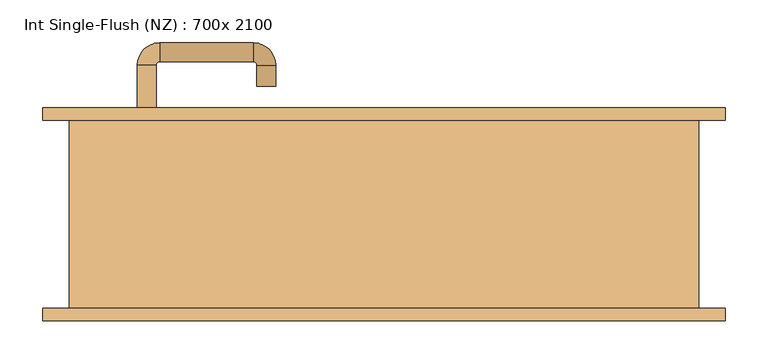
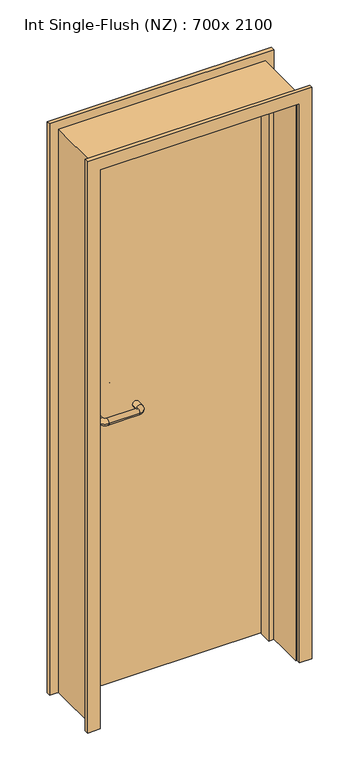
"""IFC4 building model written with IfcOpenShell, lengths in millimetres: door geometry, Int Single-Flush (NZ) : 700x 2100."""

from ifc_helpers import new_model, si_unit, point, frame, frame_2d, origin, place, context, project, spatial, polyline, circle_curve, ellipse_curve, trimmed, segment, composite_curve, outline, extrude, faceted_brep, source, transform, mapped, element, save
from ifc_brep_helpers import plane_surface, cylinder_surface, revolved_surface, advanced_brep


def int_single_flush_nz_700x_2100_f912e773(model_context):
    return source(origin(), model_context, "Body", "SolidModel", [
        extrude(outline(polyline([(2119.0, -444.0), (0.0, -444.0), (0.0, -425.0), (2100.0, -425.0), (2100.0, 275.0), (0.0, 275.0), (0.0, 294.0), (2119.0, 294.0), (2119.0, -444.0)])), frame((0.0, -110.0, 0.0), z_axis=(0.0, 1.0, 0.0), x_axis=(0.0, 0.0, 1.0)), (0.0, 0.0, 1.0), 220.0),
        faceted_brep([(-425.0, 69.0, 0.0), (-406.6719264, 69.0, 0.0), (-406.6719264, 24.0, 0.0), (-425.0, 24.0, 0.0), (-425.0, 69.0, 2100.0), (-406.6719264, 69.0, 2081.6719264), (-406.6719264, 24.0, 2081.6719264), (-425.0, 24.0, 2100.0), (275.0, 69.0, 0.0), (275.0, 24.0, 0.0), (256.6719264, 24.0, 0.0), (256.6719264, 69.0, 0.0), (275.0, 69.0, 2100.0), (275.0, 24.0, 2100.0), (256.6719264, 24.0, 2081.6719264), (256.6719264, 69.0, 2081.6719264)], [[[0, 1, 2, 3]], [[1, 0, 4, 5]], [[2, 1, 5, 6]], [[3, 2, 6, 7]], [[0, 3, 7, 4]], [[8, 9, 10, 11]], [[12, 13, 9, 8]], [[13, 14, 10, 9]], [[14, 15, 11, 10]], [[15, 12, 8, 11]], [[5, 4, 12, 15]], [[6, 5, 15, 14]], [[7, 6, 14, 13]], [[4, 7, 13, 12]]]),
        extrude(outline(polyline([(2150.0, 325.0), (2150.0, -475.0), (0.0, -475.0), (0.0, -430.0), (2105.0, -430.0), (2105.0, 280.0), (0.0, 280.0), (0.0, 325.0), (2150.0, 325.0)])), frame((0.0, 110.0, 0.0), z_axis=(0.0, 1.0, 0.0), x_axis=(0.0, 0.0, 1.0)), (0.0, 0.0, 1.0), 15.0),
        extrude(outline(polyline([(2150.0, -475.0), (0.0, -475.0), (0.0, -430.0), (2105.0, -430.0), (2105.0, 280.0), (0.0, 280.0), (0.0, 325.0), (2150.0, 325.0), (2150.0, -475.0)])), frame((0.0, -125.0, 0.0), z_axis=(0.0, 1.0, 0.0), x_axis=(0.0, 0.0, 1.0)), (0.0, 0.0, 1.0), 15.0),
        advanced_brep(
        [(-364.0, 62.0160352, 1053.0), (-342.0, 62.0160352, 1053.0), (-364.0, 7.0160352, 1053.0), (-342.0, 7.0160352, 1053.0), (-338.0, 3.0160352, 1053.0), (-338.0, -18.9839648, 1053.0), (-228.0, -18.9839648, 1053.0), (-228.0, 3.0160352, 1053.0), (-224.0, 7.0160352, 1053.0), (-202.0, 7.0160352, 1053.0), (-202.0, 32.0160352, 1053.0), (-224.0, 32.0160352, 1053.0)],
        [
            (0, 1, circle_curve(frame((-353.0, 62.0160352, 1053.0), z_axis=(0.0, 1.0, 0.0), x_axis=(1.0, 0.0, 0.0)), 11.0)),
            (1, 0, circle_curve(frame((-353.0, 62.0160352, 1053.0), z_axis=(0.0, 1.0, 0.0), x_axis=(1.0, 0.0, 0.0)), 11.0)),
            (0, 2),
            (2, 3, circle_curve(frame((-353.0, 7.0160352, 1053.0), z_axis=(0.0, 1.0, 0.0), x_axis=(1.0, 0.0, 0.0)), 11.0)),
            (3, 1),
            (3, 2, circle_curve(frame((-353.0, 7.0160352, 1053.0), z_axis=(0.0, 1.0, 0.0), x_axis=(1.0, 0.0, 0.0)), 11.0)),
            (4, 3, circle_curve(frame((-338.0, 7.0160352, 1053.0), z_axis=(0.0, 0.0, -1.0), x_axis=(-1.0, 0.0, 0.0)), 4.0)),
            (2, 5, circle_curve(frame((-338.0, 7.0160352, 1053.0), z_axis=(0.0, 0.0, 1.0), x_axis=(-1.0, 0.0, 0.0)), 26.0)),
            (5, 4, circle_curve(frame((-338.0, -7.9839648, 1053.0), z_axis=(-1.0, 0.0, 0.0), x_axis=(0.0, 1.0, 0.0)), 11.0)),
            (4, 5, circle_curve(frame((-338.0, -7.9839648, 1053.0), z_axis=(-1.0, 0.0, 0.0), x_axis=(0.0, 1.0, 0.0)), 11.0)),
            (5, 6),
            (6, 7, circle_curve(frame((-228.0, -7.9839648, 1053.0), z_axis=(-1.0, 0.0, 0.0), x_axis=(0.0, 1.0, 0.0)), 11.0)),
            (7, 4),
            (7, 6, circle_curve(frame((-228.0, -7.9839648, 1053.0), z_axis=(-1.0, 0.0, 0.0), x_axis=(0.0, 1.0, 0.0)), 11.0)),
            (8, 7, circle_curve(frame((-228.0, 7.0160352, 1053.0), z_axis=(0.0, 0.0, -1.0), x_axis=(0.0, -1.0, 0.0)), 4.0)),
            (6, 9, circle_curve(frame((-228.0, 7.0160352, 1053.0), z_axis=(0.0, 0.0, 1.0), x_axis=(0.0, -1.0, 0.0)), 26.0)),
            (9, 8, circle_curve(frame((-213.0, 7.0160352, 1053.0), z_axis=(0.0, -1.0, 0.0), x_axis=(-1.0, 0.0, 0.0)), 11.0)),
            (8, 9, circle_curve(frame((-213.0, 7.0160352, 1053.0), z_axis=(0.0, -1.0, 0.0), x_axis=(-1.0, 0.0, 0.0)), 11.0)),
            (10, 11, circle_curve(frame((-213.0, 32.0160352, 1053.0), z_axis=(0.0, 1.0, 0.0), x_axis=(-1.0, 0.0, 0.0)), 11.0)),
            (11, 10, circle_curve(frame((-213.0, 32.0160352, 1053.0), z_axis=(0.0, 1.0, 0.0), x_axis=(-1.0, 0.0, 0.0)), 11.0)),
            (9, 10),
            (11, 8),
        ],
        [
            plane_surface(frame((-364.0, 62.0160352, 1053.0), z_axis=(0.0, 1.0, 0.0), x_axis=(0.0, 0.0, -1.0))),
            cylinder_surface(frame((-353.0, 62.0160352, 1053.0), z_axis=(0.0, 1.0, 0.0), x_axis=(1.0, 0.0, 0.0)), 11.0),
            revolved_surface(trimmed(ellipse_curve(frame((-353.0, 7.0160352, 1053.0), z_axis=(0.0, 1.0, 0.0), x_axis=(1.0, 0.0, 0.0)), 11.0, 11.0), [point((-364.0, 7.0160352, 1053.0))], [point((-342.0, 7.0160352, 1053.0))], True, "CARTESIAN"), (-338.0, 7.0160352, 1053.0), (0.0, 0.0, 1.0)),
            revolved_surface(trimmed(ellipse_curve(frame((-353.0, 7.0160352, 1053.0), z_axis=(0.0, 1.0, 0.0), x_axis=(1.0, 0.0, 0.0)), 11.0, 11.0), [point((-342.0, 7.0160352, 1053.0))], [point((-364.0, 7.0160352, 1053.0))], True, "CARTESIAN"), (-338.0, 7.0160352, 1053.0), (0.0, 0.0, 1.0)),
            cylinder_surface(frame((-338.0, -7.9839648, 1053.0), z_axis=(-1.0, 0.0, 0.0), x_axis=(0.0, 1.0, 0.0)), 11.0),
            revolved_surface(trimmed(ellipse_curve(frame((-228.0, -7.9839648, 1053.0), z_axis=(-1.0, 0.0, 0.0), x_axis=(0.0, 1.0, 0.0)), 11.0, 11.0), [point((-228.0, -18.9839648, 1053.0))], [point((-228.0, 3.0160352, 1053.0))], True, "CARTESIAN"), (-228.0, 7.0160352, 1053.0), (0.0, 0.0, 1.0)),
            revolved_surface(trimmed(ellipse_curve(frame((-228.0, -7.9839648, 1053.0), z_axis=(-1.0, 0.0, 0.0), x_axis=(0.0, 1.0, 0.0)), 11.0, 11.0), [point((-228.0, 3.0160352, 1053.0))], [point((-228.0, -18.9839648, 1053.0))], True, "CARTESIAN"), (-228.0, 7.0160352, 1053.0), (0.0, 0.0, 1.0)),
            plane_surface(frame((-224.0, 32.0160352, 1053.0), z_axis=(0.0, 1.0, 0.0), x_axis=(0.0, 0.0, 1.0))),
            cylinder_surface(frame((-213.0, 7.0160352, 1053.0), z_axis=(0.0, -1.0, 0.0), x_axis=(-1.0, 0.0, 0.0)), 11.0),
        ],
        [
            (0, [[1, 2]]),
            (1, [[-1, 3, 4, 5]]),
            (1, [[-2, -5, 6, -3]]),
            (2, [[7, -4, 8, 9]]),
            (3, [[-8, -6, -7, 10]]),
            (4, [[-9, 11, 12, 13]]),
            (4, [[-10, -13, 14, -11]]),
            (5, [[15, -12, 16, 17]]),
            (6, [[-16, -14, -15, 18]]),
            (7, [[19, 20]]),
            (8, [[-17, 21, -20, 22]]),
            (8, [[-18, -22, -19, -21]]),
        ],
    ),
        extrude(outline(composite_curve([segment(trimmed(circle_curve(frame_2d((1053.0, -353.0)), 25.0), [point((1053.0, -378.0))], [point((1053.0, -328.0))], False, "CARTESIAN"), True, "CONTINUOUS"), segment(trimmed(circle_curve(frame_2d((1053.0, -353.0)), 25.0), [point((1053.0, -328.0))], [point((1053.0, -378.0))], False, "CARTESIAN"), True, "CONTINUOUS")], self_intersect=False)), frame((0.0, 62.0160352, 0.0), z_axis=(0.0, 1.0, 0.0), x_axis=(0.0, 0.0, 1.0)), (0.0, 0.0, 1.0), 9.9839648),
        advanced_brep(
        [(-342.0, 120.0, 1053.0), (-364.0, 120.0, 1053.0), (-342.0, 175.0, 1053.0), (-364.0, 175.0, 1053.0), (-338.0, 201.0, 1053.0), (-338.0, 179.0, 1053.0), (-228.0, 179.0, 1053.0), (-228.0, 201.0, 1053.0), (-202.0, 175.0, 1053.0), (-224.0, 175.0, 1053.0), (-224.0, 150.0, 1053.0), (-202.0, 150.0, 1053.0)],
        [
            (0, 1, circle_curve(frame((-353.0, 120.0, 1053.0), z_axis=(0.0, -1.0, 0.0), x_axis=(-1.0, 0.0, 0.0)), 11.0)),
            (1, 0, circle_curve(frame((-353.0, 120.0, 1053.0), z_axis=(0.0, -1.0, 0.0), x_axis=(-1.0, 0.0, 0.0)), 11.0)),
            (0, 2),
            (2, 3, circle_curve(frame((-353.0, 175.0, 1053.0), z_axis=(0.0, -1.0, 0.0), x_axis=(-1.0, 0.0, 0.0)), 11.0)),
            (3, 1),
            (3, 2, circle_curve(frame((-353.0, 175.0, 1053.0), z_axis=(0.0, -1.0, 0.0), x_axis=(-1.0, 0.0, 0.0)), 11.0)),
            (4, 3, circle_curve(frame((-338.0, 175.0, 1053.0), z_axis=(0.0, 0.0, 1.0), x_axis=(-1.0, 0.0, 0.0)), 26.0)),
            (2, 5, circle_curve(frame((-338.0, 175.0, 1053.0), z_axis=(0.0, 0.0, -1.0), x_axis=(-1.0, 0.0, 0.0)), 4.0)),
            (5, 4, circle_curve(frame((-338.0, 190.0, 1053.0), z_axis=(-1.0, 0.0, 0.0), x_axis=(0.0, 1.0, 0.0)), 11.0)),
            (4, 5, circle_curve(frame((-338.0, 190.0, 1053.0), z_axis=(-1.0, 0.0, 0.0), x_axis=(0.0, 1.0, 0.0)), 11.0)),
            (5, 6),
            (6, 7, circle_curve(frame((-228.0, 190.0, 1053.0), z_axis=(-1.0, 0.0, 0.0), x_axis=(0.0, 1.0, 0.0)), 11.0)),
            (7, 4),
            (7, 6, circle_curve(frame((-228.0, 190.0, 1053.0), z_axis=(-1.0, 0.0, 0.0), x_axis=(0.0, 1.0, 0.0)), 11.0)),
            (8, 7, circle_curve(frame((-228.0, 175.0, 1053.0), z_axis=(0.0, 0.0, 1.0), x_axis=(0.0, 1.0, 0.0)), 26.0)),
            (6, 9, circle_curve(frame((-228.0, 175.0, 1053.0), z_axis=(0.0, 0.0, -1.0), x_axis=(0.0, 1.0, 0.0)), 4.0)),
            (9, 8, circle_curve(frame((-213.0, 175.0, 1053.0), z_axis=(0.0, 1.0, 0.0), x_axis=(1.0, 0.0, 0.0)), 11.0)),
            (8, 9, circle_curve(frame((-213.0, 175.0, 1053.0), z_axis=(0.0, 1.0, 0.0), x_axis=(1.0, 0.0, 0.0)), 11.0)),
            (10, 11, circle_curve(frame((-213.0, 150.0, 1053.0), z_axis=(0.0, -1.0, 0.0), x_axis=(1.0, 0.0, 0.0)), 11.0)),
            (11, 10, circle_curve(frame((-213.0, 150.0, 1053.0), z_axis=(0.0, -1.0, 0.0), x_axis=(1.0, 0.0, 0.0)), 11.0)),
            (9, 10),
            (11, 8),
        ],
        [
            plane_surface(frame((-364.0, 120.0, 1053.0), z_axis=(0.0, -1.0, 0.0), x_axis=(0.0, 0.0, 1.0))),
            cylinder_surface(frame((-353.0, 120.0, 1053.0), z_axis=(0.0, -1.0, 0.0), x_axis=(-1.0, 0.0, 0.0)), 11.0),
            revolved_surface(trimmed(ellipse_curve(frame((-353.0, 175.0, 1053.0), z_axis=(0.0, -1.0, 0.0), x_axis=(-1.0, 0.0, 0.0)), 11.0, 11.0), [point((-342.0, 175.0, 1053.0))], [point((-364.0, 175.0, 1053.0))], True, "CARTESIAN"), (-338.0, 175.0, 1053.0), (0.0, 0.0, -1.0)),
            revolved_surface(trimmed(ellipse_curve(frame((-353.0, 175.0, 1053.0), z_axis=(0.0, -1.0, 0.0), x_axis=(-1.0, 0.0, 0.0)), 11.0, 11.0), [point((-364.0, 175.0, 1053.0))], [point((-342.0, 175.0, 1053.0))], True, "CARTESIAN"), (-338.0, 175.0, 1053.0), (0.0, 0.0, -1.0)),
            cylinder_surface(frame((-338.0, 190.0, 1053.0), z_axis=(-1.0, 0.0, 0.0), x_axis=(0.0, 1.0, 0.0)), 11.0),
            revolved_surface(trimmed(ellipse_curve(frame((-228.0, 190.0, 1053.0), z_axis=(-1.0, 0.0, 0.0), x_axis=(0.0, 1.0, 0.0)), 11.0, 11.0), [point((-228.0, 179.0, 1053.0))], [point((-228.0, 201.0, 1053.0))], True, "CARTESIAN"), (-228.0, 175.0, 1053.0), (0.0, 0.0, -1.0)),
            revolved_surface(trimmed(ellipse_curve(frame((-228.0, 190.0, 1053.0), z_axis=(-1.0, 0.0, 0.0), x_axis=(0.0, 1.0, 0.0)), 11.0, 11.0), [point((-228.0, 201.0, 1053.0))], [point((-228.0, 179.0, 1053.0))], True, "CARTESIAN"), (-228.0, 175.0, 1053.0), (0.0, 0.0, -1.0)),
            plane_surface(frame((-224.0, 150.0, 1053.0), z_axis=(0.0, -1.0, 0.0), x_axis=(0.0, 0.0, -1.0))),
            cylinder_surface(frame((-213.0, 175.0, 1053.0), z_axis=(0.0, 1.0, 0.0), x_axis=(1.0, 0.0, 0.0)), 11.0),
        ],
        [
            (0, [[1, 2]]),
            (1, [[-1, 3, 4, 5]]),
            (1, [[-2, -5, 6, -3]]),
            (2, [[7, -4, 8, 9]]),
            (3, [[-8, -6, -7, 10]]),
            (4, [[-9, 11, 12, 13]]),
            (4, [[-10, -13, 14, -11]]),
            (5, [[15, -12, 16, 17]]),
            (6, [[-16, -14, -15, 18]]),
            (7, [[19, 20]]),
            (8, [[-17, 21, -20, 22]]),
            (8, [[-18, -22, -19, -21]]),
        ],
    ),
        extrude(outline(composite_curve([segment(trimmed(circle_curve(frame_2d((1053.0, -353.0)), 25.0), [point((1053.0, -328.0))], [point((1053.0, -378.0))], False, "CARTESIAN"), True, "CONTINUOUS"), segment(trimmed(circle_curve(frame_2d((1053.0, -353.0)), 25.0), [point((1053.0, -378.0))], [point((1053.0, -328.0))], False, "CARTESIAN"), True, "CONTINUOUS")], self_intersect=False)), frame((0.0, 110.0, 0.0), z_axis=(0.0, 1.0, 0.0), x_axis=(0.0, 0.0, 1.0)), (0.0, 0.0, 1.0), 10.0),
        extrude(outline(polyline([(272.0, 72.0), (-428.0, 72.0), (-428.0, 110.0), (272.0, 110.0), (272.0, 72.0)])), frame((0.0, 0.0, 3.0), z_axis=(0.0, 0.0, 1.0), x_axis=(1.0, 0.0, 0.0)), (0.0, 0.0, 1.0), 2094.0),
    ])


if __name__ == "__main__":
    model = new_model("IFC4")
    model_context = context("Model", 3, world=origin())
    ifc_project = project(units=[si_unit("LENGTHUNIT", "METRE", prefix="MILLI")], contexts=[model_context])
    site = spatial("IfcSite", under=ifc_project)
    building = spatial("IfcBuilding", under=site)
    placement = place(None, origin())
    int_single_flush_nz_700x_2100_shape = int_single_flush_nz_700x_2100_f912e773(model_context)
    element("IfcDoor", 1, ObjectType="Int Single-Flush (NZ) : 700x 2100", at=placement, inside=building, context=model_context, shape_type="MappedRepresentation", body=[
        mapped(int_single_flush_nz_700x_2100_shape, transform((0.0, 0.0, 0.0), x_axis=(1.0, 0.0, 0.0), y_axis=(0.0, 1.0, 0.0), z_axis=(0.0, 0.0, 1.0))),
    ])
    save(model, "model.ifc")
